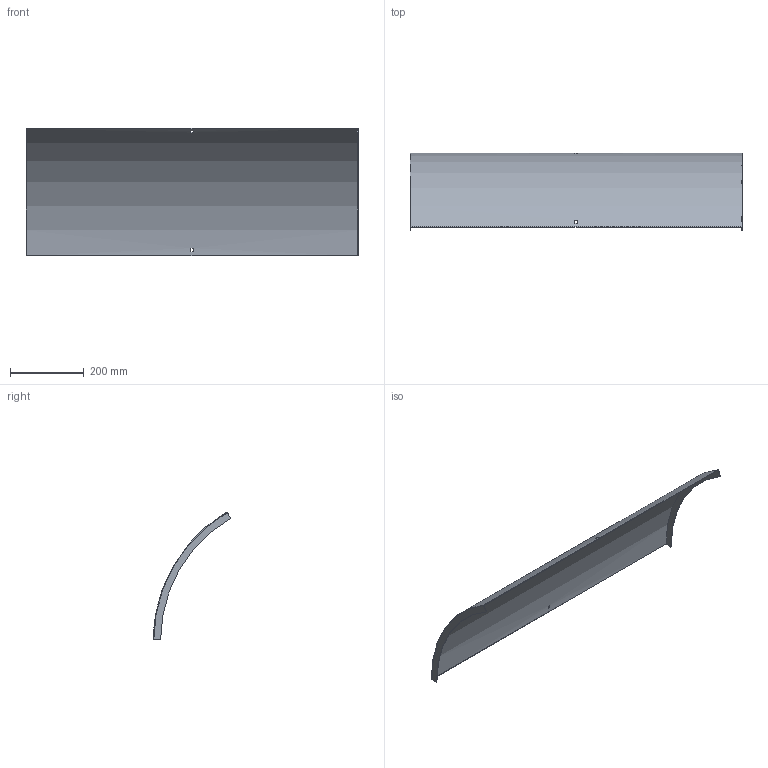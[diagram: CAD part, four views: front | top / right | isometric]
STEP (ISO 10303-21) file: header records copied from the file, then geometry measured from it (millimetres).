
FILE_DESCRIPTION (( 'STEP AP214' ), '1' );
FILE_NAME ('B2_41N3D900.step', '2025-02-21T10:42:01', ( '' ), ( '' ), 'SwSTEP 2.0', 'SolidWorks 2023', '' );
FILE_SCHEMA (( 'AUTOMOTIVE_DESIGN' ));
Length unit declared in the file: millimetre
Products named in the file (1): B2_41N3D900
Bounding box: 903 x 210.75 x 347.71 mm (x, y, z)
Volume: 590970 mm3; surface area: 792073.9 mm2
Topology: 1 solids, 1 shells, 18 faces, 48 edges, 32 vertices
Faces by surface type: plane 14, cylinder 4
Entity records: 599 total; most frequent: DIRECTION 102, CARTESIAN_POINT 99, ORIENTED_EDGE 96, EDGE_CURVE 48, AXIS2_PLACEMENT_3D 35, VERTEX_POINT 32, LINE 32, VECTOR 32
